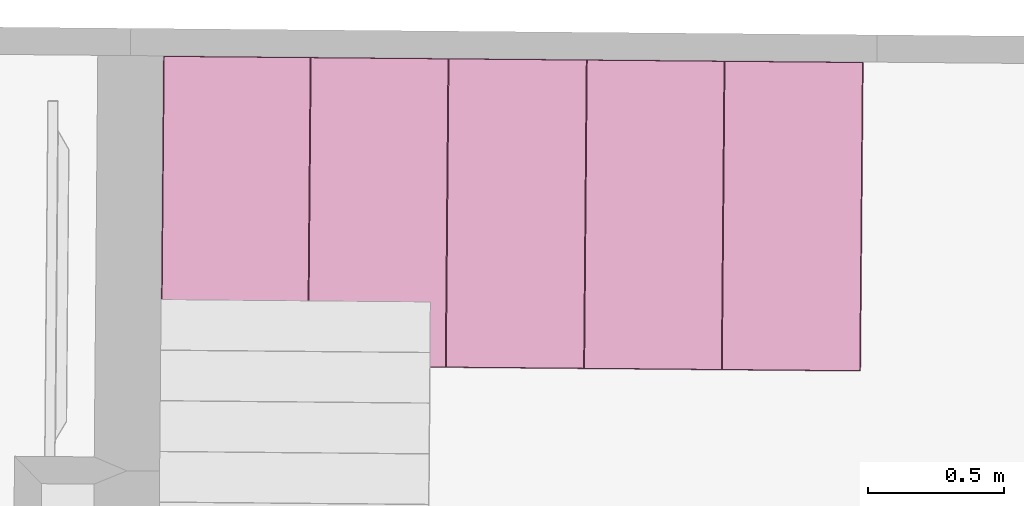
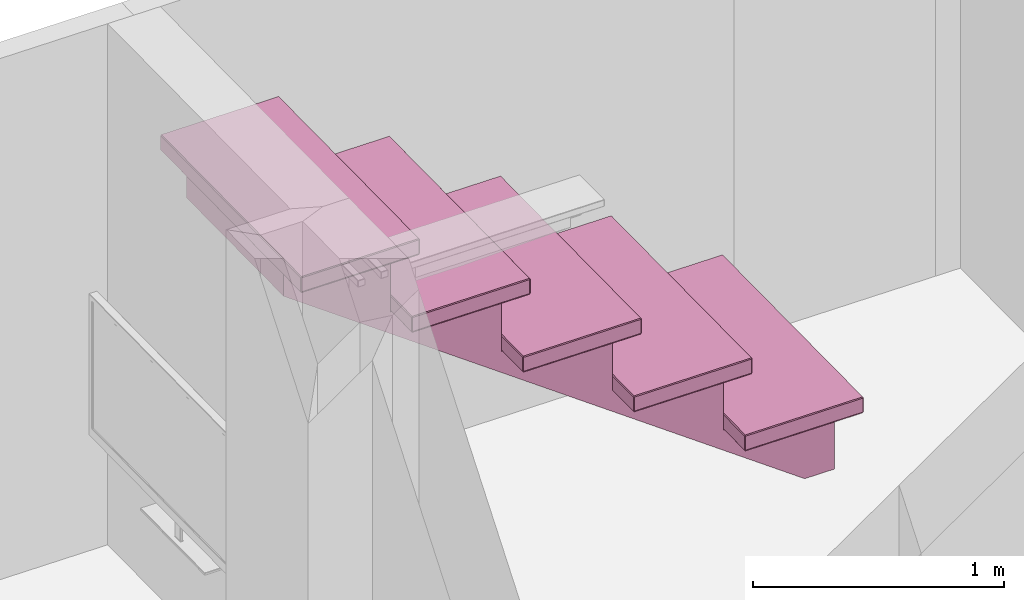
# One storey, part 5 of 7: 1 furniture element.
"""IFC4 building model written with IfcOpenShell, lengths in metres."""

from ifc_helpers import new_model, si_unit, direction, frame, origin_with_axes, place, context, project, spatial, polygons, type_object, element, save


model = new_model("IFC4")

# Units and contexts
model_context = context("Model", 3, precision=1e-05, world=origin_with_axes(), true_north=direction((-0.077, 0.997, 0.0)))
ifc_project = project(units=[si_unit("AREAUNIT", "SQUARE_METRE"), si_unit("LENGTHUNIT", "METRE")], contexts=[model_context])

# Site, building, storey, space
site_placement = place(None, origin_with_axes())
site = spatial("IfcSite", under=ifc_project, at=site_placement, Name="Site", CompositionType="ELEMENT")
building_placement = place(site_placement, origin_with_axes())
building = spatial("IfcBuilding", under=site, at=building_placement, Name="Building", CompositionType="ELEMENT")
storey_placement = place(building_placement, frame((0.0, 0.0, 2.86083245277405), z_axis=(0.0, 0.0, 1.0), x_axis=(1.0, 0.0, 0.0)))
storey = spatial("IfcBuildingStorey", under=building, at=storey_placement, Name="Story 1", CompositionType="ELEMENT", Elevation=2.86083245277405)
space_placement = place(storey_placement, frame((5.20392612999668, 0.0566384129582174, 0.0), z_axis=(0.0, 0.0, 1.0), x_axis=(1.0, 0.0, 0.0)))
space = spatial("IfcSpace", under=storey, at=space_placement, Name="011", CompositionType="ELEMENT")

# Furniture
furniture_type = type_object("IfcFurnitureType", Name="b4bc20dc-78bc-456c-9c69-3c158bae4a7d", AssemblyPlace="NOTDEFINED", PredefinedType="USERDEFINED")
furniture_placement = place(space_placement, frame((-2.36193065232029, 1.2193430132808, 0.95438814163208), z_axis=(0.0, 0.0, 0.999999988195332), x_axis=(0.999961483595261, -0.00878491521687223, 0.0)))
element("IfcFurniture", 1, at=furniture_placement, inside=space, type_object=furniture_type, Name="STAIRS", ObjectType="STAIRS", PredefinedType="USERDEFINED", context=model_context, shape_type="Tessellation", body=[
    polygons([(1.2857, 0.5658, -0.5189), (1.2857, -0.5658, -0.5189), (1.2857, 0.5658, -0.5864), (1.2857, -0.5658, -0.5864), (1.2857, 0.5658, -0.5864), (1.2857, -0.5658, -0.5189), (1.2821, -0.5678, -0.5189), (0.7461, -0.5678, -0.5189), (1.2821, -0.5678, -0.5864), (0.7461, -0.5678, -0.5864), (1.2821, -0.5678, -0.5864), (0.7461, -0.5678, -0.5189), (0.7425, -0.5658, -0.5189), (0.7425, 0.5658, -0.5189), (0.7425, -0.5658, -0.5864), (0.7425, 0.5658, -0.5864), (0.7425, -0.5658, -0.5864), (0.7425, 0.5658, -0.5189), (0.7461, 0.5678, -0.5189), (1.2821, 0.5678, -0.5189), (0.7461, 0.5678, -0.5864), (1.2821, 0.5678, -0.5864), (0.7461, 0.5678, -0.5864), (1.2821, 0.5678, -0.5189), (1.2821, -0.5658, -0.5916), (0.7461, -0.5658, -0.5916), (1.2821, 0.5658, -0.5916), (0.7461, 0.5658, -0.5916), (1.2821, 0.5658, -0.5916), (0.7461, -0.5658, -0.5916), (1.2821, -0.5658, -0.5137), (1.2821, 0.5658, -0.5137), (0.7461, -0.5658, -0.5137), (0.7461, 0.5658, -0.5137), (0.7461, -0.5658, -0.5137), (1.2821, 0.5658, -0.5137), (1.2821, 0.5678, -0.5864), (1.2857, 0.5658, -0.5864), (1.2821, 0.5658, -0.5916), (1.2821, -0.5678, -0.5864), (1.2821, -0.5658, -0.5916), (1.2857, -0.5658, -0.5864), (0.7425, -0.5658, -0.5864), (0.7461, -0.5658, -0.5916), (0.7461, -0.5678, -0.5864), (0.7425, 0.5658, -0.5864), (0.7461, 0.5678, -0.5864), (0.7461, 0.5658, -0.5916), (1.2821, 0.5658, -0.5137), (1.2857, 0.5658, -0.5189), (1.2821, 0.5678, -0.5189), (1.2821, -0.5658, -0.5137), (1.2821, -0.5678, -0.5189), (1.2857, -0.5658, -0.5189), (0.7461, -0.5658, -0.5137), (0.7425, -0.5658, -0.5189), (0.7461, -0.5678, -0.5189), (0.7461, 0.5658, -0.5137), (0.7461, 0.5678, -0.5189), (0.7425, 0.5658, -0.5189), (1.2821, 0.5658, -0.5916), (1.2857, 0.5658, -0.5864), (1.2821, -0.5658, -0.5916), (1.2857, -0.5658, -0.5864), (1.2821, -0.5658, -0.5916), (1.2857, 0.5658, -0.5864), (1.2821, -0.5678, -0.5864), (1.2857, -0.5658, -0.5864), (1.2821, -0.5678, -0.5189), (1.2857, -0.5658, -0.5189), (1.2821, -0.5678, -0.5189), (1.2857, -0.5658, -0.5864), (1.2821, -0.5658, -0.5137), (1.2857, -0.5658, -0.5189), (1.2821, 0.5658, -0.5137), (1.2857, 0.5658, -0.5189), (1.2821, 0.5658, -0.5137), (1.2857, -0.5658, -0.5189), (1.2821, 0.5678, -0.5189), (1.2857, 0.5658, -0.5189), (1.2821, 0.5678, -0.5864), (1.2857, 0.5658, -0.5864), (1.2821, 0.5678, -0.5864), (1.2857, 0.5658, -0.5189), (1.2821, -0.5658, -0.5916), (1.2821, -0.5678, -0.5864), (0.7461, -0.5658, -0.5916), (0.7461, -0.5678, -0.5864), (0.7461, -0.5658, -0.5916), (1.2821, -0.5678, -0.5864), (0.7425, -0.5658, -0.5864), (0.7461, -0.5678, -0.5864), (0.7425, -0.5658, -0.5189), (0.7461, -0.5678, -0.5189), (0.7425, -0.5658, -0.5189), (0.7461, -0.5678, -0.5864), (0.7461, -0.5658, -0.5137), (0.7461, -0.5678, -0.5189), (1.2821, -0.5658, -0.5137), (1.2821, -0.5678, -0.5189), (1.2821, -0.5658, -0.5137), (0.7461, -0.5678, -0.5189), (0.7461, -0.5658, -0.5916), (0.7425, -0.5658, -0.5864), (0.7461, 0.5658, -0.5916), (0.7425, 0.5658, -0.5864), (0.7461, 0.5658, -0.5916), (0.7425, -0.5658, -0.5864), (0.7461, 0.5678, -0.5864), (0.7425, 0.5658, -0.5864), (0.7461, 0.5678, -0.5189), (0.7425, 0.5658, -0.5189), (0.7461, 0.5678, -0.5189), (0.7425, 0.5658, -0.5864), (0.7461, 0.5658, -0.5137), (0.7425, 0.5658, -0.5189), (0.7461, -0.5658, -0.5137), (0.7425, -0.5658, -0.5189), (0.7461, -0.5658, -0.5137), (0.7425, 0.5658, -0.5189), (0.7461, 0.5658, -0.5916), (0.7461, 0.5678, -0.5864), (1.2821, 0.5658, -0.5916), (1.2821, 0.5678, -0.5864), (1.2821, 0.5658, -0.5916), (0.7461, 0.5678, -0.5864), (1.2821, 0.5658, -0.5137), (1.2821, 0.5678, -0.5189), (0.7461, 0.5658, -0.5137), (0.7461, 0.5678, -0.5189), (0.7461, 0.5658, -0.5137), (1.2821, 0.5678, -0.5189), (0.7773, 0.5658, -0.154), (0.7773, -0.5658, -0.154), (0.7773, 0.5658, -0.2215), (0.7773, -0.5658, -0.2215), (0.7773, 0.5658, -0.2215), (0.7773, -0.5658, -0.154), (0.7737, -0.5678, -0.154), (0.2378, -0.5678, -0.154), (0.7737, -0.5678, -0.2215), (0.2378, -0.5678, -0.2215), (0.7737, -0.5678, -0.2215), (0.2378, -0.5678, -0.154), (0.2341, -0.5658, -0.154), (0.2341, 0.5658, -0.154), (0.2341, -0.5658, -0.2215), (0.2341, 0.5658, -0.2215), (0.2341, -0.5658, -0.2215), (0.2341, 0.5658, -0.154), (0.2378, 0.5678, -0.154), (0.7737, 0.5678, -0.154), (0.2378, 0.5678, -0.2215), (0.7737, 0.5678, -0.2215), (0.2378, 0.5678, -0.2215), (0.7737, 0.5678, -0.154), (0.7737, -0.5658, -0.2267), (0.2378, -0.5658, -0.2267), (0.7737, 0.5658, -0.2267), (0.2378, 0.5658, -0.2267), (0.7737, 0.5658, -0.2267), (0.2378, -0.5658, -0.2267), (0.7737, -0.5658, -0.1488), (0.7737, 0.5658, -0.1488), (0.2378, -0.5658, -0.1488), (0.2378, 0.5658, -0.1488), (0.2378, -0.5658, -0.1488), (0.7737, 0.5658, -0.1488), (0.7737, 0.5678, -0.2215), (0.7773, 0.5658, -0.2215), (0.7737, 0.5658, -0.2267), (0.7737, -0.5678, -0.2215), (0.7737, -0.5658, -0.2267), (0.7773, -0.5658, -0.2215), (0.2341, -0.5658, -0.2215), (0.2378, -0.5658, -0.2267), (0.2378, -0.5678, -0.2215), (0.2341, 0.5658, -0.2215), (0.2378, 0.5678, -0.2215), (0.2378, 0.5658, -0.2267), (0.7737, 0.5658, -0.1488), (0.7773, 0.5658, -0.154), (0.7737, 0.5678, -0.154), (0.7737, -0.5658, -0.1488), (0.7737, -0.5678, -0.154), (0.7773, -0.5658, -0.154), (0.2378, -0.5658, -0.1488), (0.2341, -0.5658, -0.154), (0.2378, -0.5678, -0.154), (0.2378, 0.5658, -0.1488), (0.2378, 0.5678, -0.154), (0.2341, 0.5658, -0.154), (0.7737, 0.5658, -0.2267), (0.7773, 0.5658, -0.2215), (0.7737, -0.5658, -0.2267), (0.7773, -0.5658, -0.2215), (0.7737, -0.5658, -0.2267), (0.7773, 0.5658, -0.2215), (0.7737, -0.5678, -0.2215), (0.7773, -0.5658, -0.2215), (0.7737, -0.5678, -0.154), (0.7773, -0.5658, -0.154), (0.7737, -0.5678, -0.154), (0.7773, -0.5658, -0.2215), (0.7737, -0.5658, -0.1488), (0.7773, -0.5658, -0.154), (0.7737, 0.5658, -0.1488), (0.7773, 0.5658, -0.154), (0.7737, 0.5658, -0.1488), (0.7773, -0.5658, -0.154), (0.7737, 0.5678, -0.154), (0.7773, 0.5658, -0.154), (0.7737, 0.5678, -0.2215), (0.7773, 0.5658, -0.2215), (0.7737, 0.5678, -0.2215), (0.7773, 0.5658, -0.154), (0.7737, -0.5658, -0.2267), (0.7737, -0.5678, -0.2215), (0.2378, -0.5658, -0.2267), (0.2378, -0.5678, -0.2215), (0.2378, -0.5658, -0.2267), (0.7737, -0.5678, -0.2215), (0.2341, -0.5658, -0.2215), (0.2378, -0.5678, -0.2215), (0.2341, -0.5658, -0.154), (0.2378, -0.5678, -0.154), (0.2341, -0.5658, -0.154), (0.2378, -0.5678, -0.2215), (0.2378, -0.5658, -0.1488), (0.2378, -0.5678, -0.154), (0.7737, -0.5658, -0.1488), (0.7737, -0.5678, -0.154), (0.7737, -0.5658, -0.1488), (0.2378, -0.5678, -0.154), (0.2378, -0.5658, -0.2267), (0.2341, -0.5658, -0.2215), (0.2378, 0.5658, -0.2267), (0.2341, 0.5658, -0.2215), (0.2378, 0.5658, -0.2267), (0.2341, -0.5658, -0.2215), (0.2378, 0.5678, -0.2215), (0.2341, 0.5658, -0.2215), (0.2378, 0.5678, -0.154), (0.2341, 0.5658, -0.154), (0.2378, 0.5678, -0.154), (0.2341, 0.5658, -0.2215), (0.2378, 0.5658, -0.1488), (0.2341, 0.5658, -0.154), (0.2378, -0.5658, -0.1488), (0.2341, -0.5658, -0.154), (0.2378, -0.5658, -0.1488), (0.2341, 0.5658, -0.154), (0.2378, 0.5658, -0.2267), (0.2378, 0.5678, -0.2215), (0.7737, 0.5658, -0.2267), (0.7737, 0.5678, -0.2215), (0.7737, 0.5658, -0.2267), (0.2378, 0.5678, -0.2215), (0.7737, 0.5658, -0.1488), (0.7737, 0.5678, -0.154), (0.2378, 0.5658, -0.1488), (0.2378, 0.5678, -0.154), (0.2378, 0.5658, -0.1488), (0.7737, 0.5678, -0.154), (0.2715, 0.5658, 0.2133), (0.2715, -0.5658, 0.2133), (0.2715, 0.5658, 0.1458), (0.2715, -0.5658, 0.1458), (0.2715, 0.5658, 0.1458), (0.2715, -0.5658, 0.2133), (0.2679, -0.5678, 0.2133), (-0.2681, -0.5678, 0.2133), (0.2679, -0.5678, 0.1458), (-0.2681, -0.5678, 0.1458), (0.2679, -0.5678, 0.1458), (-0.2681, -0.5678, 0.2133), (-0.2717, -0.5658, 0.2133), (-0.2717, 0.5658, 0.2133), (-0.2717, -0.5658, 0.1458), (-0.2717, 0.5658, 0.1458), (-0.2717, -0.5658, 0.1458), (-0.2717, 0.5658, 0.2133), (-0.2681, 0.5678, 0.2133), (0.2679, 0.5678, 0.2133), (-0.2681, 0.5678, 0.1458), (0.2679, 0.5678, 0.1458), (-0.2681, 0.5678, 0.1458), (0.2679, 0.5678, 0.2133), (0.2679, -0.5658, 0.1406), (-0.2681, -0.5658, 0.1406), (0.2679, 0.5658, 0.1406), (-0.2681, 0.5658, 0.1406), (0.2679, 0.5658, 0.1406), (-0.2681, -0.5658, 0.1406), (0.2679, -0.5658, 0.2185), (0.2679, 0.5658, 0.2185), (-0.2681, -0.5658, 0.2185), (-0.2681, 0.5658, 0.2185), (-0.2681, -0.5658, 0.2185), (0.2679, 0.5658, 0.2185), (0.2679, 0.5678, 0.1458), (0.2715, 0.5658, 0.1458), (0.2679, 0.5658, 0.1406), (0.2679, -0.5678, 0.1458), (0.2679, -0.5658, 0.1406), (0.2715, -0.5658, 0.1458), (-0.2717, -0.5658, 0.1458), (-0.2681, -0.5658, 0.1406), (-0.2681, -0.5678, 0.1458), (-0.2717, 0.5658, 0.1458), (-0.2681, 0.5678, 0.1458), (-0.2681, 0.5658, 0.1406), (0.2679, 0.5658, 0.2185), (0.2715, 0.5658, 0.2133), (0.2679, 0.5678, 0.2133), (0.2679, -0.5658, 0.2185), (0.2679, -0.5678, 0.2133), (0.2715, -0.5658, 0.2133), (-0.2681, -0.5658, 0.2185), (-0.2717, -0.5658, 0.2133), (-0.2681, -0.5678, 0.2133), (-0.2681, 0.5658, 0.2185), (-0.2681, 0.5678, 0.2133), (-0.2717, 0.5658, 0.2133), (0.2679, 0.5658, 0.1406), (0.2715, 0.5658, 0.1458), (0.2679, -0.5658, 0.1406), (0.2715, -0.5658, 0.1458), (0.2679, -0.5658, 0.1406), (0.2715, 0.5658, 0.1458), (0.2679, -0.5678, 0.1458), (0.2715, -0.5658, 0.1458), (0.2679, -0.5678, 0.2133), (0.2715, -0.5658, 0.2133), (0.2679, -0.5678, 0.2133), (0.2715, -0.5658, 0.1458), (0.2679, -0.5658, 0.2185), (0.2715, -0.5658, 0.2133), (0.2679, 0.5658, 0.2185), (0.2715, 0.5658, 0.2133), (0.2679, 0.5658, 0.2185), (0.2715, -0.5658, 0.2133), (0.2679, 0.5678, 0.2133), (0.2715, 0.5658, 0.2133), (0.2679, 0.5678, 0.1458), (0.2715, 0.5658, 0.1458), (0.2679, 0.5678, 0.1458), (0.2715, 0.5658, 0.2133), (0.2679, -0.5658, 0.1406), (0.2679, -0.5678, 0.1458), (-0.2681, -0.5658, 0.1406), (-0.2681, -0.5678, 0.1458), (-0.2681, -0.5658, 0.1406), (0.2679, -0.5678, 0.1458), (-0.2717, -0.5658, 0.1458), (-0.2681, -0.5678, 0.1458), (-0.2717, -0.5658, 0.2133), (-0.2681, -0.5678, 0.2133), (-0.2717, -0.5658, 0.2133), (-0.2681, -0.5678, 0.1458), (-0.2681, -0.5658, 0.2185), (-0.2681, -0.5678, 0.2133), (0.2679, -0.5658, 0.2185), (0.2679, -0.5678, 0.2133), (0.2679, -0.5658, 0.2185), (-0.2681, -0.5678, 0.2133), (-0.2681, -0.5658, 0.1406), (-0.2717, -0.5658, 0.1458), (-0.2681, 0.5658, 0.1406), (-0.2717, 0.5658, 0.1458), (-0.2681, 0.5658, 0.1406), (-0.2717, -0.5658, 0.1458), (-0.2681, 0.5678, 0.1458), (-0.2717, 0.5658, 0.1458), (-0.2681, 0.5678, 0.2133), (-0.2717, 0.5658, 0.2133), (-0.2681, 0.5678, 0.2133), (-0.2717, 0.5658, 0.1458), (-0.2681, 0.5658, 0.2185), (-0.2717, 0.5658, 0.2133), (-0.2681, -0.5658, 0.2185), (-0.2717, -0.5658, 0.2133), (-0.2681, -0.5658, 0.2185), (-0.2717, 0.5658, 0.2133), (-0.2681, 0.5658, 0.1406), (-0.2681, 0.5678, 0.1458), (0.2679, 0.5658, 0.1406), (0.2679, 0.5678, 0.1458), (0.2679, 0.5658, 0.1406), (-0.2681, 0.5678, 0.1458), (0.2679, 0.5658, 0.2185), (0.2679, 0.5678, 0.2133), (-0.2681, 0.5658, 0.2185), (-0.2681, 0.5678, 0.2133), (-0.2681, 0.5658, 0.2185), (0.2679, 0.5678, 0.2133), (-0.2364, 0.5658, 0.5818), (-0.2364, -0.5658, 0.5818), (-0.2364, 0.5658, 0.5143), (-0.2364, -0.5658, 0.5143), (-0.2364, 0.5658, 0.5143), (-0.2364, -0.5658, 0.5818), (-0.2401, -0.5678, 0.5818), (-0.776, -0.5678, 0.5818), (-0.2401, -0.5678, 0.5143), (-0.776, -0.5678, 0.5143), (-0.2401, -0.5678, 0.5143), (-0.776, -0.5678, 0.5818), (-0.7796, -0.5658, 0.5818), (-0.7796, 0.5658, 0.5818), (-0.7796, -0.5658, 0.5143), (-0.7796, 0.5658, 0.5143), (-0.7796, -0.5658, 0.5143), (-0.7796, 0.5658, 0.5818), (-0.776, 0.5678, 0.5818), (-0.2401, 0.5678, 0.5818), (-0.776, 0.5678, 0.5143), (-0.2401, 0.5678, 0.5143), (-0.776, 0.5678, 0.5143), (-0.2401, 0.5678, 0.5818), (-0.2401, -0.5658, 0.5091), (-0.776, -0.5658, 0.5091), (-0.2401, 0.5658, 0.5091), (-0.776, 0.5658, 0.5091), (-0.2401, 0.5658, 0.5091), (-0.776, -0.5658, 0.5091), (-0.2401, -0.5658, 0.587), (-0.2401, 0.5658, 0.587), (-0.776, -0.5658, 0.587), (-0.776, 0.5658, 0.587), (-0.776, -0.5658, 0.587), (-0.2401, 0.5658, 0.587), (-0.2401, 0.5678, 0.5143), (-0.2364, 0.5658, 0.5143), (-0.2401, 0.5658, 0.5091), (-0.2401, -0.5678, 0.5143), (-0.2401, -0.5658, 0.5091), (-0.2364, -0.5658, 0.5143), (-0.7796, -0.5658, 0.5143), (-0.776, -0.5658, 0.5091), (-0.776, -0.5678, 0.5143), (-0.7796, 0.5658, 0.5143), (-0.776, 0.5678, 0.5143), (-0.776, 0.5658, 0.5091), (-0.2401, 0.5658, 0.587), (-0.2364, 0.5658, 0.5818), (-0.2401, 0.5678, 0.5818), (-0.2401, -0.5658, 0.587), (-0.2401, -0.5678, 0.5818), (-0.2364, -0.5658, 0.5818), (-0.776, -0.5658, 0.587), (-0.7796, -0.5658, 0.5818), (-0.776, -0.5678, 0.5818), (-0.776, 0.5658, 0.587), (-0.776, 0.5678, 0.5818), (-0.7796, 0.5658, 0.5818), (-0.2401, 0.5658, 0.5091), (-0.2364, 0.5658, 0.5143), (-0.2401, -0.5658, 0.5091), (-0.2364, -0.5658, 0.5143), (-0.2401, -0.5658, 0.5091), (-0.2364, 0.5658, 0.5143), (-0.2401, -0.5678, 0.5143), (-0.2364, -0.5658, 0.5143), (-0.2401, -0.5678, 0.5818), (-0.2364, -0.5658, 0.5818), (-0.2401, -0.5678, 0.5818), (-0.2364, -0.5658, 0.5143), (-0.2401, -0.5658, 0.587), (-0.2364, -0.5658, 0.5818), (-0.2401, 0.5658, 0.587), (-0.2364, 0.5658, 0.5818), (-0.2401, 0.5658, 0.587), (-0.2364, -0.5658, 0.5818), (-0.2401, 0.5678, 0.5818), (-0.2364, 0.5658, 0.5818), (-0.2401, 0.5678, 0.5143), (-0.2364, 0.5658, 0.5143), (-0.2401, 0.5678, 0.5143), (-0.2364, 0.5658, 0.5818), (-0.2401, -0.5658, 0.5091), (-0.2401, -0.5678, 0.5143), (-0.776, -0.5658, 0.5091), (-0.776, -0.5678, 0.5143), (-0.776, -0.5658, 0.5091), (-0.2401, -0.5678, 0.5143), (-0.7796, -0.5658, 0.5143), (-0.776, -0.5678, 0.5143), (-0.7796, -0.5658, 0.5818), (-0.776, -0.5678, 0.5818), (-0.7796, -0.5658, 0.5818), (-0.776, -0.5678, 0.5143), (-0.776, -0.5658, 0.587), (-0.776, -0.5678, 0.5818), (-0.2401, -0.5658, 0.587), (-0.2401, -0.5678, 0.5818), (-0.2401, -0.5658, 0.587), (-0.776, -0.5678, 0.5818), (-0.776, -0.5658, 0.5091), (-0.7796, -0.5658, 0.5143), (-0.776, 0.5658, 0.5091), (-0.7796, 0.5658, 0.5143), (-0.776, 0.5658, 0.5091), (-0.7796, -0.5658, 0.5143), (-0.776, 0.5678, 0.5143), (-0.7796, 0.5658, 0.5143), (-0.776, 0.5678, 0.5818), (-0.7796, 0.5658, 0.5818), (-0.776, 0.5678, 0.5818), (-0.7796, 0.5658, 0.5143), (-0.776, 0.5658, 0.587), (-0.7796, 0.5658, 0.5818), (-0.776, -0.5658, 0.587), (-0.7796, -0.5658, 0.5818), (-0.776, -0.5658, 0.587), (-0.7796, 0.5658, 0.5818), (-0.776, 0.5658, 0.5091), (-0.776, 0.5678, 0.5143), (-0.2401, 0.5658, 0.5091), (-0.2401, 0.5678, 0.5143), (-0.2401, 0.5658, 0.5091), (-0.776, 0.5678, 0.5143), (-0.2401, 0.5658, 0.587), (-0.2401, 0.5678, 0.5818), (-0.776, 0.5658, 0.587), (-0.776, 0.5678, 0.5818), (-0.776, 0.5658, 0.587), (-0.2401, 0.5678, 0.5818), (-0.7425, 0.5658, 0.9492), (-0.7425, -0.5658, 0.9492), (-0.7425, 0.5658, 0.8816), (-0.7425, -0.5658, 0.8816), (-0.7425, 0.5658, 0.8816), (-0.7425, -0.5658, 0.9492), (-0.7461, -0.5678, 0.9492), (-1.2821, -0.5678, 0.9492), (-0.7461, -0.5678, 0.8816), (-1.2821, -0.5678, 0.8816), (-0.7461, -0.5678, 0.8816), (-1.2821, -0.5678, 0.9492), (-1.2857, -0.5658, 0.9492), (-1.2857, 0.5658, 0.9492), (-1.2857, -0.5658, 0.8816), (-1.2857, 0.5658, 0.8816), (-1.2857, -0.5658, 0.8816), (-1.2857, 0.5658, 0.9492), (-1.2821, 0.5678, 0.9492), (-0.7461, 0.5678, 0.9492), (-1.2821, 0.5678, 0.8816), (-0.7461, 0.5678, 0.8816), (-1.2821, 0.5678, 0.8816), (-0.7461, 0.5678, 0.9492), (-0.7461, -0.5658, 0.8764), (-1.2821, -0.5658, 0.8764), (-0.7461, 0.5658, 0.8764), (-1.2821, 0.5658, 0.8764), (-0.7461, 0.5658, 0.8764), (-1.2821, -0.5658, 0.8764), (-0.7461, -0.5658, 0.9544), (-0.7461, 0.5658, 0.9544), (-1.2821, -0.5658, 0.9544), (-1.2821, 0.5658, 0.9544), (-1.2821, -0.5658, 0.9544), (-0.7461, 0.5658, 0.9544), (-0.7461, 0.5678, 0.8816), (-0.7425, 0.5658, 0.8816), (-0.7461, 0.5658, 0.8764), (-0.7461, -0.5678, 0.8816), (-0.7461, -0.5658, 0.8764), (-0.7425, -0.5658, 0.8816), (-1.2857, -0.5658, 0.8816), (-1.2821, -0.5658, 0.8764), (-1.2821, -0.5678, 0.8816), (-1.2857, 0.5658, 0.8816), (-1.2821, 0.5678, 0.8816), (-1.2821, 0.5658, 0.8764), (-0.7461, 0.5658, 0.9544), (-0.7425, 0.5658, 0.9492), (-0.7461, 0.5678, 0.9492), (-0.7461, -0.5658, 0.9544), (-0.7461, -0.5678, 0.9492), (-0.7425, -0.5658, 0.9492), (-1.2821, -0.5658, 0.9544), (-1.2857, -0.5658, 0.9492), (-1.2821, -0.5678, 0.9492), (-1.2821, 0.5658, 0.9544), (-1.2821, 0.5678, 0.9492), (-1.2857, 0.5658, 0.9492), (-0.7461, 0.5658, 0.8764), (-0.7425, 0.5658, 0.8816), (-0.7461, -0.5658, 0.8764), (-0.7425, -0.5658, 0.8816), (-0.7461, -0.5658, 0.8764), (-0.7425, 0.5658, 0.8816), (-0.7461, -0.5678, 0.8816), (-0.7425, -0.5658, 0.8816), (-0.7461, -0.5678, 0.9492), (-0.7425, -0.5658, 0.9492), (-0.7461, -0.5678, 0.9492), (-0.7425, -0.5658, 0.8816), (-0.7461, -0.5658, 0.9544), (-0.7425, -0.5658, 0.9492), (-0.7461, 0.5658, 0.9544), (-0.7425, 0.5658, 0.9492), (-0.7461, 0.5658, 0.9544), (-0.7425, -0.5658, 0.9492), (-0.7461, 0.5678, 0.9492), (-0.7425, 0.5658, 0.9492), (-0.7461, 0.5678, 0.8816), (-0.7425, 0.5658, 0.8816), (-0.7461, 0.5678, 0.8816), (-0.7425, 0.5658, 0.9492), (-0.7461, -0.5658, 0.8764), (-0.7461, -0.5678, 0.8816), (-1.2821, -0.5658, 0.8764), (-1.2821, -0.5678, 0.8816), (-1.2821, -0.5658, 0.8764), (-0.7461, -0.5678, 0.8816), (-1.2857, -0.5658, 0.8816), (-1.2821, -0.5678, 0.8816), (-1.2857, -0.5658, 0.9492), (-1.2821, -0.5678, 0.9492), (-1.2857, -0.5658, 0.9492), (-1.2821, -0.5678, 0.8816), (-1.2821, -0.5658, 0.9544), (-1.2821, -0.5678, 0.9492), (-0.7461, -0.5658, 0.9544), (-0.7461, -0.5678, 0.9492), (-0.7461, -0.5658, 0.9544), (-1.2821, -0.5678, 0.9492), (-1.2821, -0.5658, 0.8764), (-1.2857, -0.5658, 0.8816), (-1.2821, 0.5658, 0.8764), (-1.2857, 0.5658, 0.8816), (-1.2821, 0.5658, 0.8764), (-1.2857, -0.5658, 0.8816), (-1.2821, 0.5678, 0.8816), (-1.2857, 0.5658, 0.8816), (-1.2821, 0.5678, 0.9492), (-1.2857, 0.5658, 0.9492), (-1.2821, 0.5678, 0.9492), (-1.2857, 0.5658, 0.8816), (-1.2821, 0.5658, 0.9544), (-1.2857, 0.5658, 0.9492), (-1.2821, -0.5658, 0.9544), (-1.2857, -0.5658, 0.9492), (-1.2821, -0.5658, 0.9544), (-1.2857, 0.5658, 0.9492), (-1.2821, 0.5658, 0.8764), (-1.2821, 0.5678, 0.8816), (-0.7461, 0.5658, 0.8764), (-0.7461, 0.5678, 0.8816), (-0.7461, 0.5658, 0.8764), (-1.2821, 0.5678, 0.8816), (-0.7461, 0.5658, 0.9544), (-0.7461, 0.5678, 0.9492), (-1.2821, 0.5658, 0.9544), (-1.2821, 0.5678, 0.9492), (-1.2821, 0.5658, 0.9544), (-0.7461, 0.5678, 0.9492), (1.2482, 0.3385, -0.5912), (1.2482, 0.3385, -0.9544), (1.2482, 0.3876, -0.5912), (1.2482, 0.3876, -0.9544), (1.2482, 0.3876, -0.5912), (1.2482, 0.3385, -0.9544), (0.7412, 0.3385, -0.5912), (1.2482, 0.3385, -0.5912), (0.7412, 0.3876, -0.5912), (1.2482, 0.3876, -0.5912), (0.7412, 0.3876, -0.5912), (1.2482, 0.3385, -0.5912), (0.7412, 0.3385, -0.2248), (0.7412, 0.3385, -0.5912), (0.7412, 0.3876, -0.2248), (0.7412, 0.3876, -0.5912), (0.7412, 0.3876, -0.2248), (0.7412, 0.3385, -0.5912), (0.2342, 0.3385, -0.2248), (0.7412, 0.3385, -0.2248), (0.2342, 0.3876, -0.2248), (0.7412, 0.3876, -0.2248), (0.2342, 0.3876, -0.2248), (0.7412, 0.3385, -0.2248), (0.2342, 0.3385, 0.1415), (0.2342, 0.3385, -0.2248), (0.2342, 0.3876, 0.1415), (0.2342, 0.3876, -0.2248), (0.2342, 0.3876, 0.1415), (0.2342, 0.3385, -0.2248), (-0.2728, 0.3385, 0.1415), (0.2342, 0.3385, 0.1415), (-0.2728, 0.3876, 0.1415), (0.2342, 0.3876, 0.1415), (-0.2728, 0.3876, 0.1415), (0.2342, 0.3385, 0.1415), (-0.2728, 0.3385, 0.5079), (-0.2728, 0.3385, 0.1415), (-0.2728, 0.3876, 0.5079), (-0.2728, 0.3876, 0.1415), (-0.2728, 0.3876, 0.5079), (-0.2728, 0.3385, 0.1415), (-0.7798, 0.3385, 0.5079), (-0.2728, 0.3385, 0.5079), (-0.7798, 0.3876, 0.5079), (-0.2728, 0.3876, 0.5079), (-0.7798, 0.3876, 0.5079), (-0.2728, 0.3385, 0.5079), (-0.7798, 0.3385, 0.8743), (-0.7798, 0.3385, 0.5079), (-0.7798, 0.3876, 0.8743), (-0.7798, 0.3876, 0.5079), (-0.7798, 0.3876, 0.8743), (-0.7798, 0.3385, 0.5079), (-1.2686, 0.3385, 0.8743), (-0.7798, 0.3385, 0.8743), (-1.2686, 0.3876, 0.8743), (-0.7798, 0.3876, 0.8743), (-1.2686, 0.3876, 0.8743), (-0.7798, 0.3385, 0.8743), (1.2482, -0.3985, -0.5912), (1.2482, -0.3985, -0.9544), (1.2482, -0.3494, -0.5912), (1.2482, -0.3494, -0.9544), (1.2482, -0.3494, -0.5912), (1.2482, -0.3985, -0.9544), (0.7412, -0.3985, -0.5912), (1.2482, -0.3985, -0.5912), (0.7412, -0.3494, -0.5912), (1.2482, -0.3494, -0.5912), (0.7412, -0.3494, -0.5912), (1.2482, -0.3985, -0.5912), (0.7412, -0.3985, -0.2248), (0.7412, -0.3985, -0.5912), (0.7412, -0.3494, -0.2248), (0.7412, -0.3494, -0.5912), (0.7412, -0.3494, -0.2248), (0.7412, -0.3985, -0.5912), (0.2342, -0.3985, -0.2248), (0.7412, -0.3985, -0.2248), (0.2342, -0.3494, -0.2248), (0.7412, -0.3494, -0.2248), (0.2342, -0.3494, -0.2248), (0.7412, -0.3985, -0.2248), (0.2342, -0.3985, 0.1415), (0.2342, -0.3985, -0.2248), (0.2342, -0.3494, 0.1415), (0.2342, -0.3494, -0.2248), (0.2342, -0.3494, 0.1415), (0.2342, -0.3985, -0.2248), (-0.2728, -0.3985, 0.1415), (0.2342, -0.3985, 0.1415), (-0.2728, -0.3494, 0.1415), (0.2342, -0.3494, 0.1415), (-0.2728, -0.3494, 0.1415), (0.2342, -0.3985, 0.1415), (-0.2728, -0.3985, 0.5079), (-0.2728, -0.3985, 0.1415), (-0.2728, -0.3494, 0.5079), (-0.2728, -0.3494, 0.1415), (-0.2728, -0.3494, 0.5079), (-0.2728, -0.3985, 0.1415), (-0.7798, -0.3985, 0.5079), (-0.2728, -0.3985, 0.5079), (-0.7798, -0.3494, 0.5079), (-0.2728, -0.3494, 0.5079), (-0.7798, -0.3494, 0.5079), (-0.2728, -0.3985, 0.5079), (-0.7798, -0.3985, 0.8743), (-0.7798, -0.3985, 0.5079), (-0.7798, -0.3494, 0.8743), (-0.7798, -0.3494, 0.5079), (-0.7798, -0.3494, 0.8743), (-0.7798, -0.3985, 0.5079), (-1.2686, -0.3985, 0.8743), (-0.7798, -0.3985, 0.8743), (-1.2686, -0.3494, 0.8743), (-0.7798, -0.3494, 0.8743), (-1.2686, -0.3494, 0.8743), (-0.7798, -0.3985, 0.8743), (1.112, 0.3876, -0.9544), (1.112, 0.3385, -0.9544), (-1.2686, 0.3876, 0.7517), (-1.2686, 0.3385, 0.7517), (-1.2686, 0.3876, 0.7517), (1.112, 0.3385, -0.9544), (1.112, -0.3494, -0.9544), (1.112, -0.3985, -0.9544), (-1.2686, -0.3494, 0.7517), (-1.2686, -0.3985, 0.7517), (-1.2686, -0.3494, 0.7517), (1.112, -0.3985, -0.9544), (1.112, 0.3876, -0.9544), (1.2482, 0.3876, -0.9544), (1.112, 0.3385, -0.9544), (1.2482, 0.3385, -0.9544), (1.112, 0.3385, -0.9544), (1.2482, 0.3876, -0.9544), (-1.2686, 0.3876, 0.7517), (-1.2686, 0.3385, 0.7517), (-1.2686, 0.3876, 0.8743), (-1.2686, 0.3385, 0.8743), (-1.2686, 0.3876, 0.8743), (-1.2686, 0.3385, 0.7517), (1.112, -0.3985, -0.9544), (1.112, -0.3494, -0.9544), (1.2482, -0.3985, -0.9544), (1.2482, -0.3494, -0.9544), (1.2482, -0.3985, -0.9544), (1.112, -0.3494, -0.9544), (-1.2686, -0.3494, 0.7517), (-1.2686, -0.3985, 0.7517), (-1.2686, -0.3494, 0.8743), (-1.2686, -0.3985, 0.8743), (-1.2686, -0.3494, 0.8743), (-1.2686, -0.3985, 0.7517), (-0.7798, 0.3385, 0.8743), (-1.2686, 0.3385, 0.8743), (-0.7798, -0.3494, 0.8743), (-1.2686, -0.3494, 0.8743), (-0.7798, -0.3494, 0.8743), (-1.2686, 0.3385, 0.8743), (-0.7798, 0.3385, 0.5079), (-0.7798, 0.3385, 0.8743), (-0.7798, -0.3494, 0.5079), (-0.7798, -0.3494, 0.8743), (-0.7798, -0.3494, 0.5079), (-0.7798, 0.3385, 0.8743), (-0.2728, 0.3385, 0.5079), (-0.7798, 0.3385, 0.5079), (-0.2728, -0.3494, 0.5079), (-0.7798, -0.3494, 0.5079), (-0.2728, -0.3494, 0.5079), (-0.7798, 0.3385, 0.5079), (-0.2728, 0.3385, 0.1415), (-0.2728, 0.3385, 0.5079), (-0.2728, -0.3494, 0.1415), (-0.2728, -0.3494, 0.5079), (-0.2728, -0.3494, 0.1415), (-0.2728, 0.3385, 0.5079), (0.2342, 0.3385, 0.1415), (-0.2728, 0.3385, 0.1415), (0.2342, -0.3494, 0.1415), (-0.2728, -0.3494, 0.1415), (0.2342, -0.3494, 0.1415), (-0.2728, 0.3385, 0.1415), (0.2342, 0.3385, -0.2248), (0.2342, 0.3385, 0.1415), (0.2342, -0.3494, -0.2248), (0.2342, -0.3494, 0.1415), (0.2342, -0.3494, -0.2248), (0.2342, 0.3385, 0.1415), (0.7412, 0.3385, -0.2248), (0.2342, 0.3385, -0.2248), (0.7412, -0.3494, -0.2248), (0.2342, -0.3494, -0.2248), (0.7412, -0.3494, -0.2248), (0.2342, 0.3385, -0.2248), (0.7412, 0.3385, -0.5912), (0.7412, 0.3385, -0.2248), (0.7412, -0.3494, -0.5912), (0.7412, -0.3494, -0.2248), (0.7412, -0.3494, -0.5912), (0.7412, 0.3385, -0.2248), (1.2482, 0.3385, -0.5912), (0.7412, 0.3385, -0.5912), (1.2482, -0.3494, -0.5912), (0.7412, -0.3494, -0.5912), (1.2482, -0.3494, -0.5912), (0.7412, 0.3385, -0.5912), (1.2482, 0.3385, -0.9544), (1.2482, 0.3385, -0.5912), (1.2482, -0.3494, -0.9544), (1.2482, -0.3494, -0.5912), (1.2482, -0.3494, -0.9544), (1.2482, 0.3385, -0.5912), (1.112, -0.3494, -0.9544), (1.112, 0.3385, -0.9544), (1.2482, -0.3494, -0.9544), (1.2482, 0.3385, -0.9544), (1.2482, -0.3494, -0.9544), (1.112, 0.3385, -0.9544), (-1.2686, 0.3385, 0.7517), (1.112, 0.3385, -0.9544), (-1.2686, -0.3494, 0.7517), (1.112, -0.3494, -0.9544), (-1.2686, -0.3494, 0.7517), (1.112, 0.3385, -0.9544), (-1.2686, -0.3985, 0.8743), (-1.2686, -0.3985, 0.7517), (-0.7798, -0.3985, 0.8743), (-0.7798, -0.3985, 0.8743), (-1.2686, -0.3985, 0.7517), (-0.7798, -0.3985, 0.5079), (-0.2728, -0.3985, 0.5079), (-0.7798, -0.3985, 0.5079), (-0.2728, -0.3985, 0.1415), (-0.7798, -0.3985, 0.5079), (-1.2686, -0.3985, 0.7517), (-0.2728, -0.3985, 0.1415), (0.2342, -0.3985, 0.1415), (-0.2728, -0.3985, 0.1415), (0.2342, -0.3985, -0.2248), (0.7412, -0.3985, -0.2248), (0.2342, -0.3985, -0.2248), (0.7412, -0.3985, -0.5912), (0.2342, -0.3985, -0.2248), (-0.2728, -0.3985, 0.1415), (0.7412, -0.3985, -0.5912), (-0.2728, -0.3985, 0.1415), (-1.2686, -0.3985, 0.7517), (0.7412, -0.3985, -0.5912), (1.2482, -0.3985, -0.5912), (0.7412, -0.3985, -0.5912), (1.2482, -0.3985, -0.9544), (0.7412, -0.3985, -0.5912), (-1.2686, -0.3985, 0.7517), (1.2482, -0.3985, -0.9544), (1.2482, -0.3985, -0.9544), (-1.2686, -0.3985, 0.7517), (1.112, -0.3985, -0.9544), (1.2482, 0.3876, -0.9544), (1.112, 0.3876, -0.9544), (1.2482, 0.3876, -0.5912), (1.2482, 0.3876, -0.5912), (1.112, 0.3876, -0.9544), (0.7412, 0.3876, -0.5912), (0.7412, 0.3876, -0.2248), (0.7412, 0.3876, -0.5912), (0.2342, 0.3876, -0.2248), (0.7412, 0.3876, -0.5912), (1.112, 0.3876, -0.9544), (0.2342, 0.3876, -0.2248), (0.2342, 0.3876, 0.1415), (0.2342, 0.3876, -0.2248), (-0.2728, 0.3876, 0.1415), (0.2342, 0.3876, -0.2248), (1.112, 0.3876, -0.9544), (-0.2728, 0.3876, 0.1415), (-0.2728, 0.3876, 0.5079), (-0.2728, 0.3876, 0.1415), (-0.7798, 0.3876, 0.5079), (-0.2728, 0.3876, 0.1415), (1.112, 0.3876, -0.9544), (-0.7798, 0.3876, 0.5079), (-0.7798, 0.3876, 0.8743), (-0.7798, 0.3876, 0.5079), (-1.2686, 0.3876, 0.8743), (-0.7798, 0.3876, 0.5079), (1.112, 0.3876, -0.9544), (-1.2686, 0.3876, 0.8743), (-1.2686, 0.3876, 0.8743), (1.112, 0.3876, -0.9544), (-1.2686, 0.3876, 0.7517), (-1.2686, -0.3494, 0.8743), (-1.2686, 0.3385, 0.8743), (-1.2686, -0.3494, 0.7517), (-1.2686, 0.3385, 0.7517), (-1.2686, -0.3494, 0.7517), (-1.2686, 0.3385, 0.8743)], [[[1, 2, 3]], [[4, 5, 6]], [[7, 8, 9]], [[10, 11, 12]], [[13, 14, 15]], [[16, 17, 18]], [[19, 20, 21]], [[22, 23, 24]], [[25, 26, 27]], [[28, 29, 30]], [[31, 32, 33]], [[34, 35, 36]], [[37, 38, 39]], [[40, 41, 42]], [[43, 44, 45]], [[46, 47, 48]], [[49, 50, 51]], [[52, 53, 54]], [[55, 56, 57]], [[58, 59, 60]], [[61, 62, 63]], [[64, 65, 66]], [[67, 68, 69]], [[70, 71, 72]], [[73, 74, 75]], [[76, 77, 78]], [[79, 80, 81]], [[82, 83, 84]], [[85, 86, 87]], [[88, 89, 90]], [[91, 92, 93]], [[94, 95, 96]], [[97, 98, 99]], [[100, 101, 102]], [[103, 104, 105]], [[106, 107, 108]], [[109, 110, 111]], [[112, 113, 114]], [[115, 116, 117]], [[118, 119, 120]], [[121, 122, 123]], [[124, 125, 126]], [[127, 128, 129]], [[130, 131, 132]], [[133, 134, 135]], [[136, 137, 138]], [[139, 140, 141]], [[142, 143, 144]], [[145, 146, 147]], [[148, 149, 150]], [[151, 152, 153]], [[154, 155, 156]], [[157, 158, 159]], [[160, 161, 162]], [[163, 164, 165]], [[166, 167, 168]], [[169, 170, 171]], [[172, 173, 174]], [[175, 176, 177]], [[178, 179, 180]], [[181, 182, 183]], [[184, 185, 186]], [[187, 188, 189]], [[190, 191, 192]], [[193, 194, 195]], [[196, 197, 198]], [[199, 200, 201]], [[202, 203, 204]], [[205, 206, 207]], [[208, 209, 210]], [[211, 212, 213]], [[214, 215, 216]], [[217, 218, 219]], [[220, 221, 222]], [[223, 224, 225]], [[226, 227, 228]], [[229, 230, 231]], [[232, 233, 234]], [[235, 236, 237]], [[238, 239, 240]], [[241, 242, 243]], [[244, 245, 246]], [[247, 248, 249]], [[250, 251, 252]], [[253, 254, 255]], [[256, 257, 258]], [[259, 260, 261]], [[262, 263, 264]], [[265, 266, 267]], [[268, 269, 270]], [[271, 272, 273]], [[274, 275, 276]], [[277, 278, 279]], [[280, 281, 282]], [[283, 284, 285]], [[286, 287, 288]], [[289, 290, 291]], [[292, 293, 294]], [[295, 296, 297]], [[298, 299, 300]], [[301, 302, 303]], [[304, 305, 306]], [[307, 308, 309]], [[310, 311, 312]], [[313, 314, 315]], [[316, 317, 318]], [[319, 320, 321]], [[322, 323, 324]], [[325, 326, 327]], [[328, 329, 330]], [[331, 332, 333]], [[334, 335, 336]], [[337, 338, 339]], [[340, 341, 342]], [[343, 344, 345]], [[346, 347, 348]], [[349, 350, 351]], [[352, 353, 354]], [[355, 356, 357]], [[358, 359, 360]], [[361, 362, 363]], [[364, 365, 366]], [[367, 368, 369]], [[370, 371, 372]], [[373, 374, 375]], [[376, 377, 378]], [[379, 380, 381]], [[382, 383, 384]], [[385, 386, 387]], [[388, 389, 390]], [[391, 392, 393]], [[394, 395, 396]], [[397, 398, 399]], [[400, 401, 402]], [[403, 404, 405]], [[406, 407, 408]], [[409, 410, 411]], [[412, 413, 414]], [[415, 416, 417]], [[418, 419, 420]], [[421, 422, 423]], [[424, 425, 426]], [[427, 428, 429]], [[430, 431, 432]], [[433, 434, 435]], [[436, 437, 438]], [[439, 440, 441]], [[442, 443, 444]], [[445, 446, 447]], [[448, 449, 450]], [[451, 452, 453]], [[454, 455, 456]], [[457, 458, 459]], [[460, 461, 462]], [[463, 464, 465]], [[466, 467, 468]], [[469, 470, 471]], [[472, 473, 474]], [[475, 476, 477]], [[478, 479, 480]], [[481, 482, 483]], [[484, 485, 486]], [[487, 488, 489]], [[490, 491, 492]], [[493, 494, 495]], [[496, 497, 498]], [[499, 500, 501]], [[502, 503, 504]], [[505, 506, 507]], [[508, 509, 510]], [[511, 512, 513]], [[514, 515, 516]], [[517, 518, 519]], [[520, 521, 522]], [[523, 524, 525]], [[526, 527, 528]], [[529, 530, 531]], [[532, 533, 534]], [[535, 536, 537]], [[538, 539, 540]], [[541, 542, 543]], [[544, 545, 546]], [[547, 548, 549]], [[550, 551, 552]], [[553, 554, 555]], [[556, 557, 558]], [[559, 560, 561]], [[562, 563, 564]], [[565, 566, 567]], [[568, 569, 570]], [[571, 572, 573]], [[574, 575, 576]], [[577, 578, 579]], [[580, 581, 582]], [[583, 584, 585]], [[586, 587, 588]], [[589, 590, 591]], [[592, 593, 594]], [[595, 596, 597]], [[598, 599, 600]], [[601, 602, 603]], [[604, 605, 606]], [[607, 608, 609]], [[610, 611, 612]], [[613, 614, 615]], [[616, 617, 618]], [[619, 620, 621]], [[622, 623, 624]], [[625, 626, 627]], [[628, 629, 630]], [[631, 632, 633]], [[634, 635, 636]], [[637, 638, 639]], [[640, 641, 642]], [[643, 644, 645]], [[646, 647, 648]], [[649, 650, 651]], [[652, 653, 654]], [[655, 656, 657]], [[658, 659, 660]], [[661, 662, 663]], [[664, 665, 666]], [[667, 668, 669]], [[670, 671, 672]], [[673, 674, 675]], [[676, 677, 678]], [[679, 680, 681]], [[682, 683, 684]], [[685, 686, 687]], [[688, 689, 690]], [[691, 692, 693]], [[694, 695, 696]], [[697, 698, 699]], [[700, 701, 702]], [[703, 704, 705]], [[706, 707, 708]], [[709, 710, 711]], [[712, 713, 714]], [[715, 716, 717]], [[718, 719, 720]], [[721, 722, 723]], [[724, 725, 726]], [[727, 728, 729]], [[730, 731, 732]], [[733, 734, 735]], [[736, 737, 738]], [[739, 740, 741]], [[742, 743, 744]], [[745, 746, 747]], [[748, 749, 750]], [[751, 752, 753]], [[754, 755, 756]], [[757, 758, 759]], [[760, 761, 762]], [[763, 764, 765]], [[766, 767, 768]], [[769, 770, 771]], [[772, 773, 774]], [[775, 776, 777]], [[778, 779, 780]], [[781, 782, 783]], [[784, 785, 786]], [[787, 788, 789]], [[790, 791, 792]], [[793, 794, 795]], [[796, 797, 798]], [[799, 800, 801]], [[802, 803, 804]], [[805, 806, 807]], [[808, 809, 810]], [[811, 812, 813]], [[814, 815, 816]], [[817, 818, 819]], [[820, 821, 822]], [[823, 824, 825]], [[826, 827, 828]], [[829, 830, 831]], [[832, 833, 834]], [[835, 836, 837]], [[838, 839, 840]], [[841, 842, 843]], [[844, 845, 846]], [[847, 848, 849]], [[850, 851, 852]], [[853, 854, 855]], [[856, 857, 858]], [[859, 860, 861]], [[862, 863, 864]], [[865, 866, 867]], [[868, 869, 870]], [[871, 872, 873]], [[874, 875, 876]], [[877, 878, 879]], [[880, 881, 882]], [[883, 884, 885]], [[886, 887, 888]], [[889, 890, 891]], [[892, 893, 894]], [[895, 896, 897]], [[898, 899, 900]], [[901, 902, 903]], [[904, 905, 906]], [[907, 908, 909]], [[910, 911, 912]], [[913, 914, 915]], [[916, 917, 918]], [[919, 920, 921]], [[922, 923, 924]], [[925, 926, 927]], [[928, 929, 930]], [[931, 932, 933]], [[934, 935, 936]], [[937, 938, 939]], [[940, 941, 942]], [[943, 944, 945]], [[946, 947, 948]], [[949, 950, 951]], [[952, 953, 954]], [[955, 956, 957]], [[958, 959, 960]]]),
])

save(model, "model.ifc")
